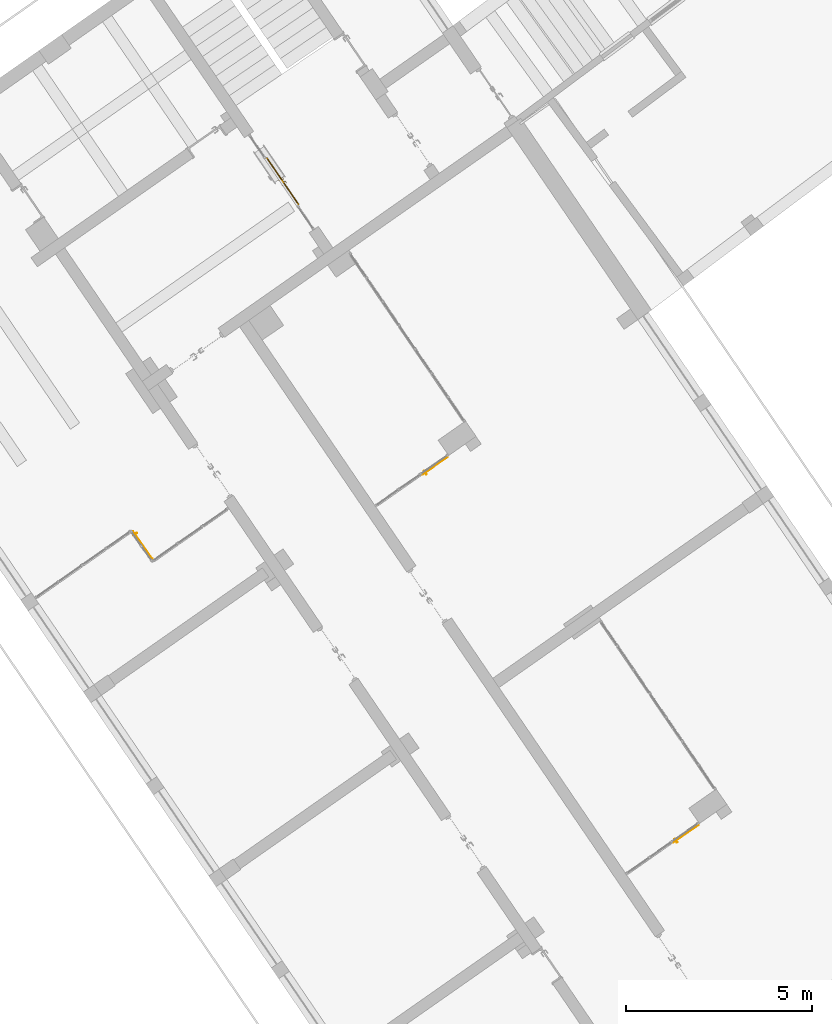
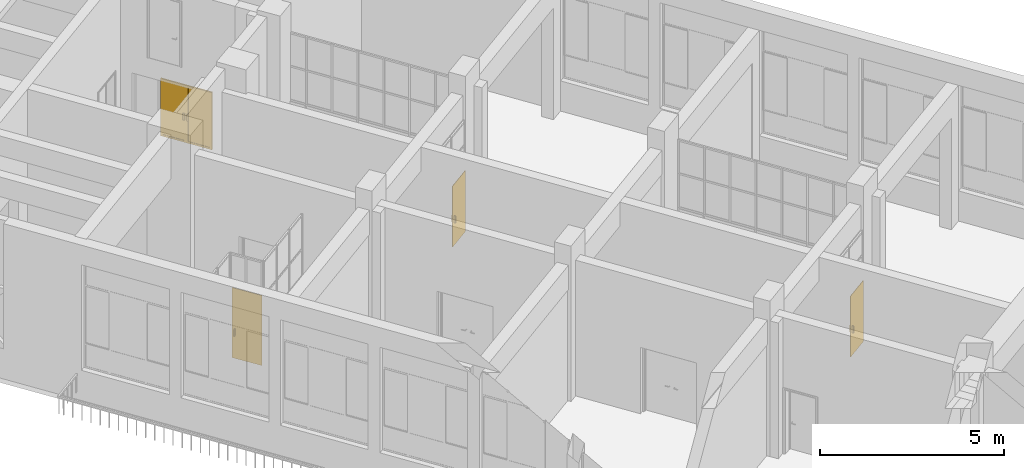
# One storey, part 155 of 157: 4 doors, 4 elements without a shape of their own.
"""IFC2X3 building model written with IfcOpenShell, lengths in millimetres."""

from ifc_helpers import new_model, entity, si_unit, converted_unit, derived_unit, direction, frame, frame_2d, origin, place, context, subcontext, project, spatial, polyline, circle_curve, parameter, trimmed, segment, composite_curve, rectangle, outline, extrude, source, transform, mapped, material, material_list, type_object, type_shapes, element, aggregate, save


model = new_model("IFC2X3")

# Units and contexts
model_context = context("Model", 3, precision=0.01, world=origin(), true_north=direction((6.123031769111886e-17, 1.0)))
body_context = subcontext(model_context, "Body", "Model", "MODEL_VIEW")
ifc_project = project(units=[si_unit("LENGTHUNIT", "METRE", prefix="MILLI"), si_unit("AREAUNIT", "SQUARE_METRE"), si_unit("VOLUMEUNIT", "CUBIC_METRE"), converted_unit("PLANEANGLEUNIT", "DEGREE", entity("IfcRatioMeasure", 0.017453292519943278), si_unit("PLANEANGLEUNIT", "RADIAN"), dimensions=[0, 0, 0, 0, 0, 0, 0]), si_unit("MASSUNIT", "GRAM", prefix="KILO"), derived_unit("MASSDENSITYUNIT", [(si_unit("MASSUNIT", "GRAM", prefix="KILO"), 1), (si_unit("LENGTHUNIT", "METRE"), -3)]), derived_unit("MOMENTOFINERTIAUNIT", [(si_unit("LENGTHUNIT", "METRE"), 4)]), si_unit("TIMEUNIT", "SECOND"), si_unit("FREQUENCYUNIT", "HERTZ"), si_unit("THERMODYNAMICTEMPERATUREUNIT", "DEGREE_CELSIUS"), derived_unit("THERMALTRANSMITTANCEUNIT", [(si_unit("MASSUNIT", "GRAM", prefix="KILO"), 1), (si_unit("THERMODYNAMICTEMPERATUREUNIT", "KELVIN"), -1), (si_unit("TIMEUNIT", "SECOND"), -3)]), derived_unit("THERMALCONDUCTANCEUNIT", [(si_unit("MASSUNIT", "GRAM", prefix="KILO"), 1), (si_unit("LENGTHUNIT", "METRE"), 1), (si_unit("THERMODYNAMICTEMPERATUREUNIT", "KELVIN"), -1), (si_unit("TIMEUNIT", "SECOND"), -3)]), derived_unit("VOLUMETRICFLOWRATEUNIT", [(si_unit("LENGTHUNIT", "METRE"), 3), (si_unit("TIMEUNIT", "SECOND"), -1)]), derived_unit("MASSFLOWRATEUNIT", [(si_unit("MASSUNIT", "GRAM", prefix="KILO"), 1), (si_unit("TIMEUNIT", "SECOND"), -1)]), derived_unit("ROTATIONALFREQUENCYUNIT", [(si_unit("TIMEUNIT", "SECOND"), -1)]), si_unit("ELECTRICCURRENTUNIT", "AMPERE"), si_unit("ELECTRICVOLTAGEUNIT", "VOLT"), si_unit("POWERUNIT", "WATT"), converted_unit("FORCEUNIT", "KIP", entity("IfcRatioMeasure", 2.088543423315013e-05), si_unit("FORCEUNIT", "NEWTON"), dimensions=[1, 1, -2, 0, 0, 0, 0]), si_unit("ILLUMINANCEUNIT", "LUX"), si_unit("LUMINOUSFLUXUNIT", "LUMEN"), si_unit("LUMINOUSINTENSITYUNIT", "CANDELA"), derived_unit("USERDEFINED", [(si_unit("MASSUNIT", "GRAM", prefix="KILO"), -1), (si_unit("LENGTHUNIT", "METRE"), -2), (si_unit("TIMEUNIT", "SECOND"), 3), (si_unit("LUMINOUSFLUXUNIT", "LUMEN"), 1)]), derived_unit("USERDEFINED", [(si_unit("MASSUNIT", "GRAM", prefix="KILO"), 1), (si_unit("LENGTHUNIT", "METRE"), 3), (si_unit("TIMEUNIT", "SECOND"), -3), (si_unit("ELECTRICCURRENTUNIT", "AMPERE"), -2)]), derived_unit("USERDEFINED", [(si_unit("LENGTHUNIT", "METRE"), 2), (si_unit("TIMEUNIT", "SECOND"), -2)]), derived_unit("SOUNDPOWERUNIT", [(si_unit("MASSUNIT", "GRAM", prefix="KILO"), 1), (si_unit("LENGTHUNIT", "METRE"), 2), (si_unit("TIMEUNIT", "SECOND"), -3)]), derived_unit("SOUNDPRESSUREUNIT", [(si_unit("MASSUNIT", "GRAM", prefix="KILO"), 1), (si_unit("LENGTHUNIT", "METRE"), -1), (si_unit("TIMEUNIT", "SECOND"), -2)]), derived_unit("LINEARVELOCITYUNIT", [(si_unit("LENGTHUNIT", "METRE"), 1), (si_unit("TIMEUNIT", "SECOND"), -1)]), si_unit("PRESSUREUNIT", "PASCAL"), derived_unit("USERDEFINED", [(si_unit("LENGTHUNIT", "METRE"), -2), (si_unit("MASSUNIT", "GRAM", prefix="KILO"), 1), (si_unit("TIMEUNIT", "SECOND"), -2)]), derived_unit("LINEARFORCEUNIT", [(si_unit("MASSUNIT", "GRAM", prefix="KILO"), 1), (si_unit("LENGTHUNIT", "METRE"), 1), (si_unit("TIMEUNIT", "SECOND"), -2), (si_unit("LENGTHUNIT", "METRE"), -1)]), derived_unit("PLANARFORCEUNIT", [(si_unit("MASSUNIT", "GRAM", prefix="KILO"), 1), (si_unit("LENGTHUNIT", "METRE"), 1), (si_unit("TIMEUNIT", "SECOND"), -2), (si_unit("LENGTHUNIT", "METRE"), -2)]), derived_unit("SPECIFICHEATCAPACITYUNIT", [(si_unit("LENGTHUNIT", "METRE"), 2), (si_unit("TIMEUNIT", "SECOND"), -2), (si_unit("THERMODYNAMICTEMPERATUREUNIT", "KELVIN"), -1)]), derived_unit("VAPORPERMEABILITYUNIT", [(si_unit("TIMEUNIT", "SECOND"), 1), (si_unit("LENGTHUNIT", "METRE"), -1)]), derived_unit("DYNAMICVISCOSITYUNIT", [(si_unit("MASSUNIT", "GRAM", prefix="KILO"), 1), (si_unit("LENGTHUNIT", "METRE"), -1), (si_unit("TIMEUNIT", "SECOND"), -1)]), derived_unit("THERMALEXPANSIONCOEFFICIENTUNIT", [(si_unit("THERMODYNAMICTEMPERATUREUNIT", "KELVIN"), -1)])], contexts=[model_context])

# Site, building, storey
site_placement = place(None, frame((0.0, 0.0, 0.0), z_axis=(0.0, 0.0, 1.0), x_axis=(0.8191520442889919, 0.5735764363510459, 0.0)))
site = spatial("IfcSite", under=ifc_project, at=site_placement, Name="Default", CompositionType="ELEMENT")
building_placement = place(site_placement, origin())
building = spatial("IfcBuilding", under=site, at=building_placement, CompositionType="ELEMENT")
storey_placement = place(building_placement, origin())
storey = spatial("IfcBuildingStorey", under=building, at=storey_placement, Name="1.EG +0.00", CompositionType="ELEMENT", Elevation=-4.331468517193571e-12)

# Curtain wall, door
curtain_wall_type_1 = type_object("IfcCurtainWallType", Name="Curtain Wall:Curtain_Wall_CJC_Int5", PredefinedType="NOTDEFINED")
curtain_wall_1_placement = place(storey_placement, origin())
curtain_wall_1 = element("IfcCurtainWall", 1, at=curtain_wall_1_placement, inside=storey, type_object=curtain_wall_type_1, Name="Curtain Wall:Curtain_Wall_CJC_Int5", ObjectType="Curtain Wall:Curtain_Wall_CJC_Int5")
ifc_material_1 = material(Name="Glass")
ifc_material_2 = material(Name="Aluminum")
ifc_material_list_1 = material_list([ifc_material_1, ifc_material_2])
door_style_1 = type_object("IfcDoorStyle", Name="M_Door-Curtain-Wall-Single-Glass:M_Door-Curtain-Wall-Single-Glass", ConstructionType="NOTDEFINED", OperationType="NOTDEFINED", ParameterTakesPrecedence=False, Sizeable=False, material=ifc_material_list_1)
shared_shape_1 = source(origin(), body_context, "Body", "SweptSolid", [
    extrude(rectangle(XDim=12.700000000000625, YDim=824.9999999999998, at=frame_2d((-3.9968028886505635e-15, 0.0), x_axis=(1.0, 0.0))), frame((0.0, 44.450000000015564, 0.0), z_axis=(0.0, 0.0, 1.0), x_axis=(0.0, -1.0, 0.0)), (0.0, 0.0, 1.0), 2024.9999999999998),
    extrude(rectangle(XDim=25.399999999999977, YDim=50.8, at=frame_2d((-3.375077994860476e-14, 0.0), x_axis=(1.0, 0.0))), frame((323.5999999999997, 12.700000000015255, 762.0)), (0.0, 0.0, 1.0), 228.60000000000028),
    extrude(rectangle(XDim=25.399999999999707, YDim=50.80000000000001, at=frame_2d((3.375077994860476e-14, -8.881784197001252e-15), x_axis=(1.0, 0.0))), frame((323.5999999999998, 76.20000000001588, 762.0), z_axis=(0.0, 0.0, 1.0), x_axis=(-1.0, 0.0, 0.0)), (0.0, 0.0, 1.0), 228.60000000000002),
])
type_shapes(door_style_1, [shared_shape_1])
door_1_placement = place(curtain_wall_1_placement, frame((-211449.0638590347, 145771.35891435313, 50.0), z_axis=(0.0, 0.0, 1.0), x_axis=(-1.0, 0.0, 0.0)))
door_1 = element("IfcDoor", 2, at=door_1_placement, type_object=door_style_1, material=ifc_material_list_1, Name="M_Door-Curtain-Wall-Single-Glass:M_Door-Curtain-Wall-Single-Glass", ObjectType="M_Door-Curtain-Wall-Single-Glass:M_Door-Curtain-Wall-Single-Glass", OverallHeight=2024.9999999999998, OverallWidth=825.0000000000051, context=body_context, shape_type="MappedRepresentation", body=[
    mapped(shared_shape_1, transform((0.0, 0.0, 0.0), scale=1.0)),
])
aggregate(curtain_wall_1, [door_1])

curtain_wall_2_placement = place(storey_placement, origin())
curtain_wall_2 = element("IfcCurtainWall", 3, at=curtain_wall_2_placement, inside=storey, type_object=curtain_wall_type_1, Name="Curtain Wall:Curtain_Wall_CJC_Int5", ObjectType="Curtain Wall:Curtain_Wall_CJC_Int5")
door_2_placement = place(curtain_wall_2_placement, frame((-211296.2964291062, 157771.3589143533, 50.0), z_axis=(0.0, 0.0, 1.0), x_axis=(-1.0, 0.0, 0.0)))
door_2 = element("IfcDoor", 4, at=door_2_placement, type_object=door_style_1, material=ifc_material_list_1, Name="M_Door-Curtain-Wall-Single-Glass:M_Door-Curtain-Wall-Single-Glass", ObjectType="M_Door-Curtain-Wall-Single-Glass:M_Door-Curtain-Wall-Single-Glass", OverallHeight=2024.9999999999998, OverallWidth=825.0000000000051, context=body_context, shape_type="MappedRepresentation", body=[
    mapped(shared_shape_1, transform((0.0, 0.0, 0.0), scale=1.0)),
])
aggregate(curtain_wall_2, [door_2])

curtain_wall_type_2 = type_object("IfcCurtainWallType", Name="Curtain Wall:Curtain_Wall_CJC_ENTR1", PredefinedType="NOTDEFINED")
curtain_wall_3_placement = place(storey_placement, origin())
curtain_wall_3 = element("IfcCurtainWall", 5, at=curtain_wall_3_placement, inside=storey, type_object=curtain_wall_type_2, Name="Curtain Wall:Curtain_Wall_CJC_ENTR1", ObjectType="Curtain Wall:Curtain_Wall_CJC_ENTR1")
ifc_material_list_2 = material_list([ifc_material_2, ifc_material_1])
door_style_2 = type_object("IfcDoorStyle", Name="M_Door-Curtain-Wall-Double-Storefront:M_Door-Curtain-Wall-Double-Storefront", ConstructionType="NOTDEFINED", OperationType="NOTDEFINED", ParameterTakesPrecedence=False, Sizeable=False, material=ifc_material_list_2)
shared_shape_2 = source(origin(), body_context, "Body", "SweptSolid", [
    extrude(outline(polyline([(-950.0, -386.145698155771), (950.0, -386.145698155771), (950.0, 386.1456981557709), (-950.0, 386.145698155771), (-950.0, -386.145698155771)]), holes=[polyline([(-892.85, 328.99569815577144), (892.85, 328.99569815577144), (892.85, -328.99569815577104), (-892.85, -328.99569815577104), (-892.85, 328.99569815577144)])]), frame((386.9163481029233, 60.0, 950.0), z_axis=(0.0, -1.0, 0.0), x_axis=(0.0, 0.0, -1.0)), (0.0, 0.0, 1.0), 44.45000000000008),
    extrude(outline(polyline([(-386.12259810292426, -950.0), (386.12259810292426, -950.0), (386.12259810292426, 950.0), (-386.1225981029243, 950.0), (-386.12259810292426, -950.0)]), holes=[polyline([(-328.9725981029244, -892.85), (-328.97259810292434, 892.85), (328.9725981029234, 892.85), (328.9725981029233, -892.85), (-328.9725981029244, -892.85)])]), frame((-386.9394481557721, 60.0, 950.0), z_axis=(0.0, -1.0, 0.0), x_axis=(-1.0, 0.0, 0.0)), (0.0, 0.0, 1.0), 44.45000000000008),
    extrude(rectangle(XDim=657.9913963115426, YDim=19.049999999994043, at=frame_2d((0.0, -2.6645352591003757e-15), x_axis=(1.0, 0.0))), frame((386.9163481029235, 37.774999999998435, 57.150000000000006)), (0.0, 0.0, 1.0), 1785.7),
    extrude(rectangle(XDim=657.9451962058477, YDim=19.049999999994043, at=frame_2d((-2.842170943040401e-14, -2.6645352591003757e-15), x_axis=(1.0, 0.0))), frame((-386.9394481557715, 37.774999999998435, 57.150000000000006)), (0.0, 0.0, 1.0), 1785.7),
    extrude(outline(composite_curve([segment(polyline([(0.8750000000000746, -22.224999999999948), (29.124999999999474, -22.224999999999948)]), True, "CONTINUOUS"), segment(polyline([(29.124999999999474, -22.224999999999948), (29.124999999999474, -15.87499999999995)]), True, "CONTINUOUS"), segment(polyline([(29.124999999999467, -15.87499999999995), (0.8750000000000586, -15.874999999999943)]), True, "CONTINUOUS"), segment(trimmed(circle_curve(frame_2d((0.8750000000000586, -3.175000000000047), x_axis=(0.0, 1.0)), 12.699999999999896), [parameter(90.00000000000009)], [parameter(180.00000000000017)], True, "PARAMETER"), False, "CONTINUOUS"), segment(polyline([(-11.82499999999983, -3.175000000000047), (-11.82499999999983, 41.27499999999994)]), True, "CONTINUOUS"), segment(polyline([(-11.82499999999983, 41.27499999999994), (-18.174999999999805, 41.27499999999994)]), True, "CONTINUOUS"), segment(polyline([(-18.174999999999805, 41.27499999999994), (-18.174999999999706, -3.175000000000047)]), True, "CONTINUOUS"), segment(trimmed(circle_curve(frame_2d((0.8750000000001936, -3.175000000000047), x_axis=(0.0, 1.0)), 19.049999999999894), [parameter(90.00000000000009)], [parameter(179.99999999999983)], True, "PARAMETER"), True, "CONTINUOUS")], self_intersect=False)), frame((-53.99810005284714, -13.57499999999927, 762.0), z_axis=(0.0, 0.0, 1.0), x_axis=(0.0, 1.0, 0.0)), (0.0, 0.0, 1.0), 228.5999999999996),
    extrude(outline(composite_curve([segment(trimmed(circle_curve(frame_2d((3.1750000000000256, -0.8749999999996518), x_axis=(1.0, 0.0)), 19.04999999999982), [parameter(3.5622212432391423e-13)], [parameter(90.00000000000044)], True, "PARAMETER"), True, "CONTINUOUS"), segment(polyline([(3.1750000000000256, 18.17500000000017), (-41.27499999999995, 18.175000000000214)]), True, "CONTINUOUS"), segment(polyline([(-41.27499999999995, 18.175000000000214), (-41.27499999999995, 11.82500000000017)]), True, "CONTINUOUS"), segment(polyline([(-41.27499999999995, 11.82500000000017), (3.175000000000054, 11.82500000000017)]), True, "CONTINUOUS"), segment(trimmed(circle_curve(frame_2d((3.175000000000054, -0.8749999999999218), x_axis=(1.0, 0.0)), 12.700000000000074), [parameter(359.99999999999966)], [parameter(89.99999999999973)], True, "PARAMETER"), False, "CONTINUOUS"), segment(polyline([(15.875000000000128, -0.8749999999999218), (15.87499999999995, -29.125000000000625)]), True, "CONTINUOUS"), segment(polyline([(15.87499999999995, -29.125000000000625), (22.2249999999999, -29.125000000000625)]), True, "CONTINUOUS"), segment(polyline([(22.2249999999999, -29.125000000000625), (22.2249999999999, -0.8749999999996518)]), True, "CONTINUOUS")], self_intersect=False)), frame((53.95189994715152, -13.575000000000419, 762.0), z_axis=(0.0, 0.0, 1.0), x_axis=(-1.0, 0.0, 0.0)), (0.0, 0.0, 1.0), 228.5999999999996),
    extrude(outline(composite_curve([segment(trimmed(circle_curve(frame_2d((-3.174999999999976, 1.5874999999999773), x_axis=(1.0, 0.0)), 19.049999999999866), [parameter(180.00000000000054)], [parameter(270.00000000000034)], True, "PARAMETER"), True, "CONTINUOUS"), segment(polyline([(-3.174999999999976, -17.462499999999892), (41.275, -17.462500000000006)]), True, "CONTINUOUS"), segment(polyline([(41.275, -17.462500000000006), (41.275, -11.112500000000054)]), True, "CONTINUOUS"), segment(polyline([(41.275, -11.112500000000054), (-3.174999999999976, -11.112500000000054)]), True, "CONTINUOUS"), segment(trimmed(circle_curve(frame_2d((-3.174999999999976, 1.5874999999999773), x_axis=(1.0, 0.0)), 12.700000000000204), [parameter(179.9999999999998)], [parameter(269.99999999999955)], True, "PARAMETER"), False, "CONTINUOUS"), segment(polyline([(-15.875000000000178, 1.5874999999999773), (-15.875000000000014, 26.987500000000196)]), True, "CONTINUOUS"), segment(polyline([(-15.875000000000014, 26.987500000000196), (-22.224999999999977, 26.987500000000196)]), True, "CONTINUOUS"), segment(polyline([(-22.224999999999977, 26.987500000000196), (-22.224999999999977, 1.5874999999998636)]), True, "CONTINUOUS")], self_intersect=False)), frame((-53.998100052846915, 86.98750000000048, 762.0), z_axis=(0.0, 0.0, 1.0), x_axis=(-1.0, 0.0, 0.0)), (0.0, 0.0, 1.0), 228.60000000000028),
    extrude(outline(composite_curve([segment(polyline([(1.5875000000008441, -22.225000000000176), (26.987499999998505, -22.225000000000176)]), True, "CONTINUOUS"), segment(polyline([(26.987499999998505, -22.225000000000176), (26.987499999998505, -15.875000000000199)]), True, "CONTINUOUS"), segment(polyline([(26.987499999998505, -15.875000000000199), (1.5875000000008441, -15.874999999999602)]), True, "CONTINUOUS"), segment(trimmed(circle_curve(frame_2d((1.5875000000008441, -3.1749999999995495), x_axis=(0.0, -1.0)), 12.700000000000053), [parameter(269.9999999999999)], [parameter(0.0)], True, "PARAMETER"), False, "CONTINUOUS"), segment(polyline([(-11.112499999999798, -3.1749999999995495), (-11.112499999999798, 41.27499999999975)]), True, "CONTINUOUS"), segment(polyline([(-11.112499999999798, 41.27499999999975), (-17.462499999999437, 41.27499999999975)]), True, "CONTINUOUS"), segment(polyline([(-17.462499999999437, 41.27499999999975), (-17.462499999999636, -3.1749999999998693)]), True, "CONTINUOUS"), segment(trimmed(circle_curve(frame_2d((1.5875000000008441, -3.1749999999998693), x_axis=(0.0, -1.0)), 19.050000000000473), [parameter(269.9999999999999)], [parameter(0.0)], True, "PARAMETER"), True, "CONTINUOUS")], self_intersect=False)), frame((53.95189994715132, 86.98749999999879, 762.0), z_axis=(0.0, 0.0, 1.0), x_axis=(0.0, -1.0, 0.0)), (0.0, 0.0, 1.0), 228.60000000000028),
])
type_shapes(door_style_2, [shared_shape_2])
door_3_placement = place(curtain_wall_3_placement, frame((-210302.20376179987, 166369.29552968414, 50.0), z_axis=(0.0, 0.0, 1.0), x_axis=(-0.012729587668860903, -0.999918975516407, 0.0)))
door_3 = element("IfcDoor", 6, at=door_3_placement, type_object=door_style_2, material=ifc_material_list_2, Name="M_Door-Curtain-Wall-Double-Storefront:M_Door-Curtain-Wall-Double-Storefront", ObjectType="M_Door-Curtain-Wall-Double-Storefront:M_Door-Curtain-Wall-Double-Storefront", OverallHeight=1900.0000000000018, OverallWidth=1546.1240925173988, context=body_context, shape_type="MappedRepresentation", body=[
    mapped(shared_shape_2, transform((0.0, 0.0, 0.0), scale=1.0)),
])
aggregate(curtain_wall_3, [door_3])

curtain_wall_4_placement = place(storey_placement, origin())
curtain_wall_4 = element("IfcCurtainWall", 7, at=curtain_wall_4_placement, inside=storey, type_object=curtain_wall_type_1, Name="Curtain Wall:Curtain_Wall_CJC_Int5", ObjectType="Curtain Wall:Curtain_Wall_CJC_Int5")
door_style_3 = type_object("IfcDoorStyle", Name="M_Door-Curtain-Wall-Single-Glass:M_Door-Curtain-Wall-Single-Glass", ConstructionType="NOTDEFINED", OperationType="NOTDEFINED", ParameterTakesPrecedence=False, Sizeable=False, material=ifc_material_list_1)
shared_shape_3 = source(origin(), body_context, "Body", "SweptSolid", [
    extrude(rectangle(XDim=899.999999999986, YDim=12.700000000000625, at=frame_2d((0.0, 3.9968028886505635e-15), x_axis=(1.0, 0.0))), frame((0.0, 44.45000000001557, 0.0), z_axis=(0.0, 0.0, 1.0), x_axis=(-1.0, 0.0, 0.0)), (0.0, 0.0, 1.0), 2325.0),
    extrude(rectangle(XDim=50.8, YDim=25.399999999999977, at=frame_2d((0.0, -3.375077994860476e-14), x_axis=(1.0, 0.0))), frame((-361.09999999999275, 12.700000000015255, 762.0), z_axis=(0.0, 0.0, 1.0), x_axis=(0.0, 1.0, 0.0)), (0.0, 0.0, 1.0), 228.60000000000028),
    extrude(rectangle(XDim=50.80000000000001, YDim=25.399999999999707, at=frame_2d((-8.881784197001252e-15, 3.375077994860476e-14), x_axis=(1.0, 0.0))), frame((-361.0999999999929, 76.20000000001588, 762.0), z_axis=(0.0, 0.0, 1.0), x_axis=(0.0, -1.0, 0.0)), (0.0, 0.0, 1.0), 228.60000000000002),
])
type_shapes(door_style_3, [shared_shape_3])
door_4_placement = place(curtain_wall_4_placement, frame((-219018.91835994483, 160494.07865434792, 50.0), z_axis=(0.0, 0.0, 1.0), x_axis=(0.0, -1.0, 0.0)))
door_4 = element("IfcDoor", 8, at=door_4_placement, type_object=door_style_3, material=ifc_material_list_1, Name="M_Door-Curtain-Wall-Single-Glass:M_Door-Curtain-Wall-Single-Glass", ObjectType="M_Door-Curtain-Wall-Single-Glass:M_Door-Curtain-Wall-Single-Glass", OverallHeight=2325.0, OverallWidth=900.0000000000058, context=body_context, shape_type="MappedRepresentation", body=[
    mapped(shared_shape_3, transform((0.0, 0.0, 0.0), scale=1.0)),
])
aggregate(curtain_wall_4, [door_4])

save(model, "model.ifc")
